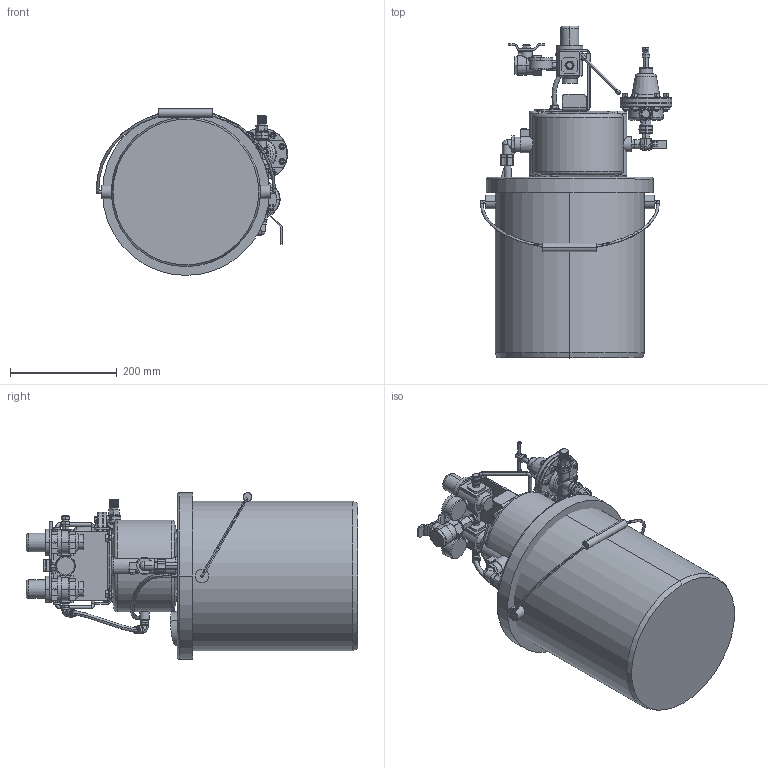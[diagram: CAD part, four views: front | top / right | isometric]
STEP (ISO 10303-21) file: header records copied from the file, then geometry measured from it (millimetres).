
FILE_DESCRIPTION((''),'2;1');
FILE_NAME('233466-EN-S_PRT','2019-12-31T16:05:16',('qusrh3'),(''),'CREO PARAMETRIC BY PTC INC, 2019030','CREO PARAMETRIC BY PTC INC, 2019030','');
FILE_SCHEMA(('CONFIG_CONTROL_DESIGN'));
Length unit declared in the file: inch
Products named in the file (1): 233466-EN-S_PRT
Bounding box: 358.01 x 621.54 x 312.62 mm (x, y, z)
Surface area: 983101.9 mm2 (no closed solid volume)
Topology: 0 solids, 139 shells, 1374 faces, 3503 edges, 2203 vertices
Faces by surface type: plane 586, cylinder 406, cone 249, torus 80, bspline 45, sphere 8
Entity records: 49468 total; most frequent: CARTESIAN_POINT 17639, DIRECTION 6632, ORIENTED_EDGE 6295, EDGE_CURVE 3490, AXIS2_PLACEMENT_3D 2495, VERTEX_POINT 2203, VECTOR 1642, LINE 1642
